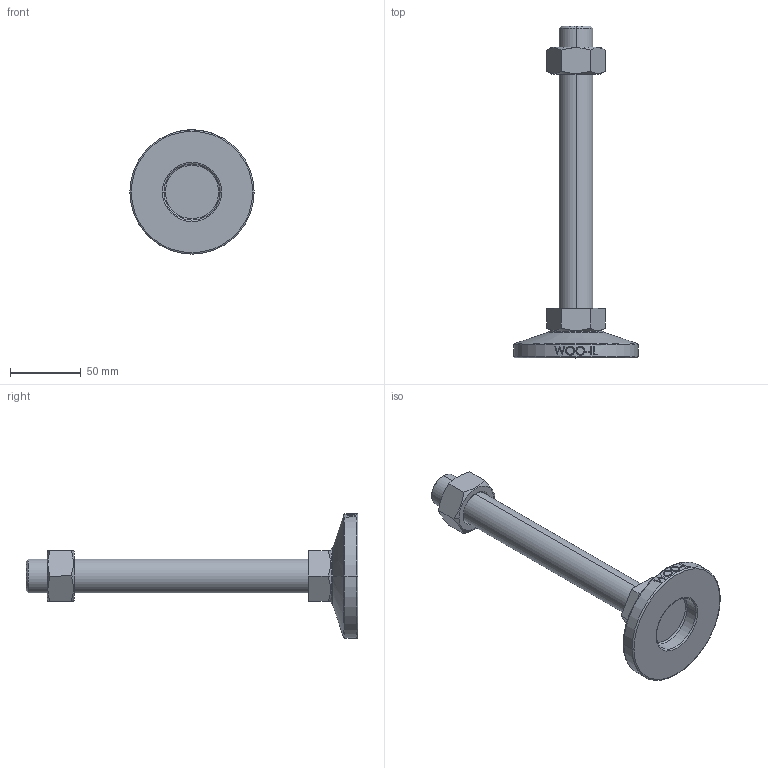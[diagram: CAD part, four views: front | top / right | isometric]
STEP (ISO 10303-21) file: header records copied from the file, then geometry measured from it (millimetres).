
FILE_DESCRIPTION (( 'STEP AP214' ), '1' );
FILE_NAME ('MFT88-M24-200.step', '2021-03-29T04:45:26', ( '' ), ( '' ), 'SwSTEP 2.0', 'SolidWorks 2019', '' );
FILE_SCHEMA (( 'AUTOMOTIVE_DESIGN' ));
Length unit declared in the file: millimetre
Products named in the file (2): MFT88-M24-200
Bounding box: 88 x 235 x 88 mm (x, y, z)
Volume: 196476.1 mm3; surface area: 40406.3 mm2
Topology: 3 solids, 3 shells, 106 faces, 243 edges, 154 vertices
Faces by surface type: plane 48, cylinder 18, bspline 16, cone 14, torus 10
Entity records: 4538 total; most frequent: CARTESIAN_POINT 2195, ORIENTED_EDGE 486, DIRECTION 439, EDGE_CURVE 243, AXIS2_PLACEMENT_3D 170, VERTEX_POINT 154, EDGE_LOOP 119, FACE_OUTER_BOUND 106
